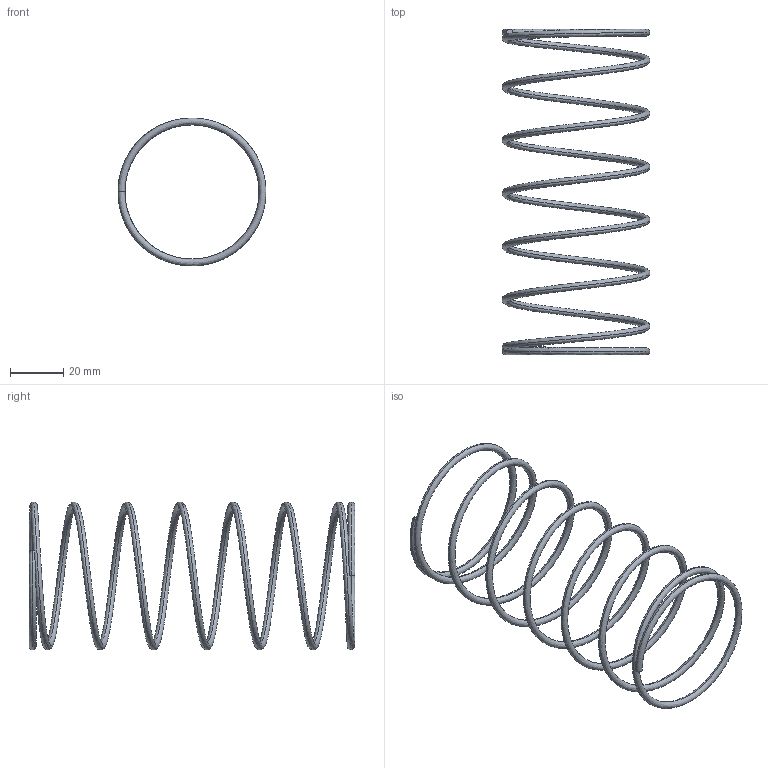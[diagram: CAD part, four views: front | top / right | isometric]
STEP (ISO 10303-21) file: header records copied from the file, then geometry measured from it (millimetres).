
FILE_DESCRIPTION(/* description */ ('Impex Ready, www.impex-ready.pl'),/* implementation_level */ '2;1');
FILE_NAME(/* name */ 'C:\Users\VIKKY\Nextcloud\SM\projekt 10 - części na stronę internetową\Pliki_3D_new\284 Sprężyny SPK\284_Spreżyny_SPK_STEP\SPK50120.ipt.step',/* time_stamp */ '2021-12-17T13:00:27+01:00',/* author */ ('SM'),/* organization */ (''),/* preprocessor_version */ 'ST-DEVELOPER v18.1',/* originating_system */ 'Autodesk Inventor 2021',/* authorisation */ '');
FILE_SCHEMA (('AUTOMOTIVE_DESIGN { 1 0 10303 214 3 1 1 }'));
Length unit declared in the file: millimetre
Products named in the file (1): SPK50120
Bounding box: 55.7 x 122.6 x 55.7 mm (x, y, z)
Volume: 7107.9 mm3; surface area: 10906.4 mm2
Topology: 1 solids, 1 shells, 4 faces, 12 edges, 8 vertices
Faces by surface type: bspline 2, plane 2
Entity records: 2207 total; most frequent: CARTESIAN_POINT 2068, ORIENTED_EDGE 24, EDGE_CURVE 12, DIRECTION 12, B_SPLINE_CURVE_WITH_KNOTS 9, VERTEX_POINT 8, EDGE_LOOP 6, AXIS2_PLACEMENT_3D 6
